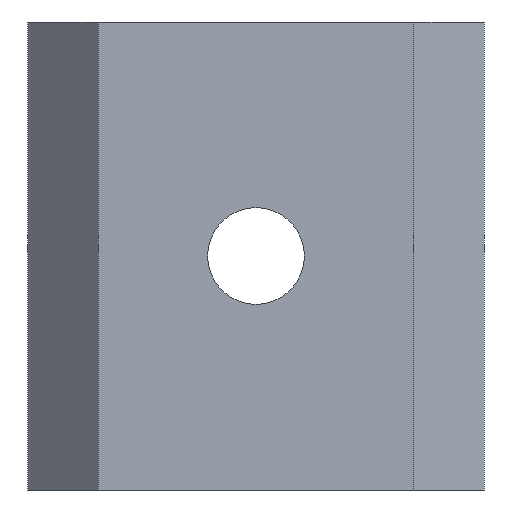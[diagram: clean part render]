
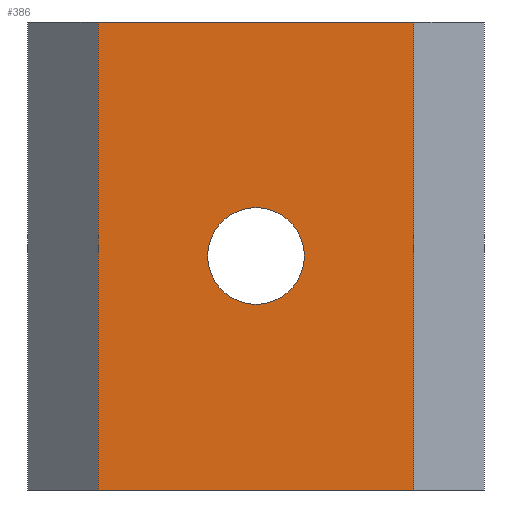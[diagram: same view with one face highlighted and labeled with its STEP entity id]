
A CAD part, front view. The second image highlights one B-rep face of the part: STEP entity #386.
In plain terms, the highlighted planar face has unit normal (0, -1, 0).
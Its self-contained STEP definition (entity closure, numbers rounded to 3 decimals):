
#145=CARTESIAN_POINT('',(11.817,0.0,-10.0));
#146=VERTEX_POINT('',#145);
#147=CARTESIAN_POINT('',(9.75,0.0,-10.0));
#148=DIRECTION('',(0.0,1.0,0.0));
#149=DIRECTION('',(1.0,0.0,0.0));
#150=AXIS2_PLACEMENT_3D('',#147,#148,#149);
#151=CIRCLE('',#150,2.067);
#152=EDGE_CURVE('',#146,#146,#151,.T.);
#318=CARTESIAN_POINT('',(16.5,0.0,-20.0));
#319=VERTEX_POINT('',#318);
#336=CARTESIAN_POINT('',(16.5,0.0,0.0));
#337=VERTEX_POINT('',#336);
#344=CARTESIAN_POINT('',(16.5,0.0,0.0));
#345=DIRECTION('',(0.0,0.0,-1.0));
#346=VECTOR('',#345,20.0);
#347=LINE('',#344,#346);
#348=EDGE_CURVE('',#337,#319,#347,.T.);
#353=CARTESIAN_POINT('',(0.0,0.0,0.0));
#354=DIRECTION('',(0.0,-1.0,0.0));
#355=DIRECTION('',(0.0,0.0,-1.0));
#356=AXIS2_PLACEMENT_3D('',#353,#354,#355);
#357=PLANE('',#356);
#358=ORIENTED_EDGE('',*,*,#348,.F.);
#359=CARTESIAN_POINT('',(3.,0.0,0.0));
#360=VERTEX_POINT('',#359);
#361=CARTESIAN_POINT('',(3.,0.0,0.0));
#362=DIRECTION('',(1.0,0.0,0.0));
#363=VECTOR('',#362,13.5);
#364=LINE('',#361,#363);
#365=EDGE_CURVE('',#360,#337,#364,.T.);
#366=ORIENTED_EDGE('',*,*,#365,.F.);
#367=CARTESIAN_POINT('',(3.,0.0,-20.0));
#368=VERTEX_POINT('',#367);
#369=CARTESIAN_POINT('',(3.,0.0,-20.0));
#370=DIRECTION('',(0.0,0.0,1.0));
#371=VECTOR('',#370,20.0);
#372=LINE('',#369,#371);
#373=EDGE_CURVE('',#368,#360,#372,.T.);
#374=ORIENTED_EDGE('',*,*,#373,.F.);
#375=CARTESIAN_POINT('',(3.,0.0,-20.0));
#376=DIRECTION('',(1.0,0.0,0.0));
#377=VECTOR('',#376,13.5);
#378=LINE('',#375,#377);
#379=EDGE_CURVE('',#368,#319,#378,.T.);
#380=ORIENTED_EDGE('',*,*,#379,.T.);
#381=EDGE_LOOP('',(#358,#366,#374,#380));
#382=FACE_OUTER_BOUND('',#381,.T.);
#383=ORIENTED_EDGE('',*,*,#152,.T.);
#384=EDGE_LOOP('',(#383));
#385=FACE_BOUND('',#384,.T.);
#386=ADVANCED_FACE('',(#382,#385),#357,.T.);
